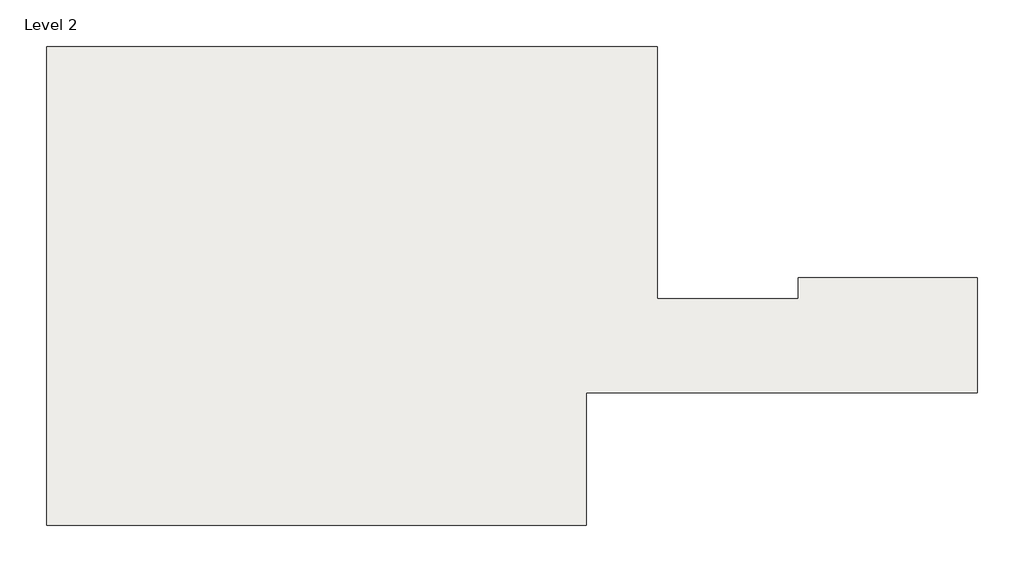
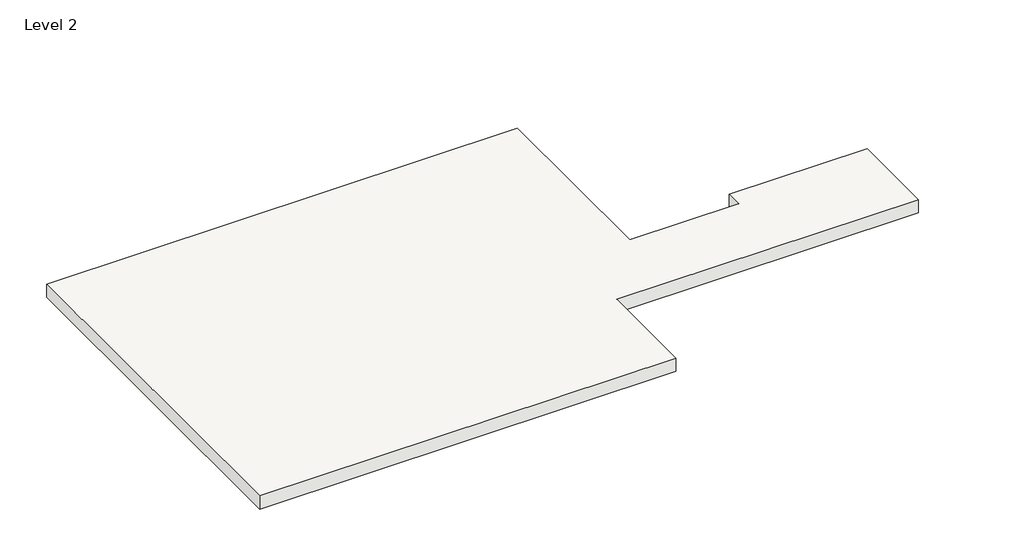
# One storey: 1 slab.
"""IFC4 building model written with IfcOpenShell, lengths in millimetres."""

from ifc_helpers import new_model, si_unit, frame, origin, place, context, project, spatial, polyline, outline, extrude, element, save

model = new_model("IFC4")

# Units and contexts
model_context = context("Model", 3, world=origin())
ifc_project = project(units=[si_unit("LENGTHUNIT", "METRE", prefix="MILLI")], contexts=[model_context])

# Site, building, storey
site = spatial("IfcSite", under=ifc_project)
building = spatial("IfcBuilding", under=site)
storey = spatial("IfcBuildingStorey", under=building, Name="Level 2", Elevation=2550.0)

# Slab
placement = place(None, origin())
element("IfcSlab", 1, ObjectType="Generic - 12\" 2", at=placement, inside=storey, context=model_context, shape_type="SweptSolid", body=[
    extrude(outline(polyline([(1160.0523126, -648.7175514), (1160.0523126, -2887.7987012), (-7943.5053604, -2887.7987012), (-7943.5053604, 5185.5879527), (2353.8919816, 5185.5879527), (2353.8919816, 931.2824486), (4736.4521517, 931.2824486), (4736.4521517, 1290.1994885), (7755.4800232, 1290.1994885), (7755.4800232, -648.7175514), (1160.0523126, -648.7175514)])), frame((0.0, 0.0, 2550.0), z_axis=(0.0, 0.0, 1.0), x_axis=(1.0, 0.0, 0.0)), (0.0, 0.0, 1.0), 304.8),
])

save(model, "model.ifc")
